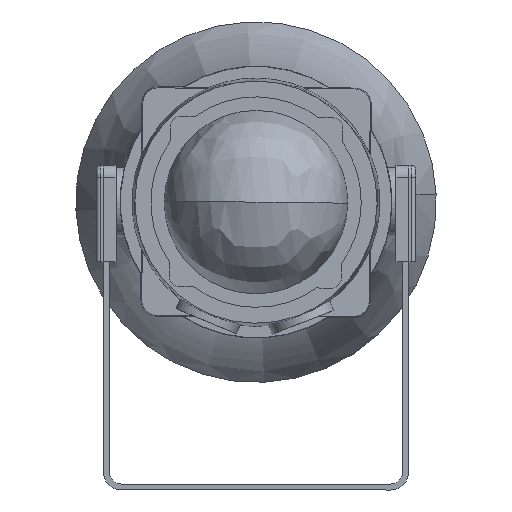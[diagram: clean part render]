
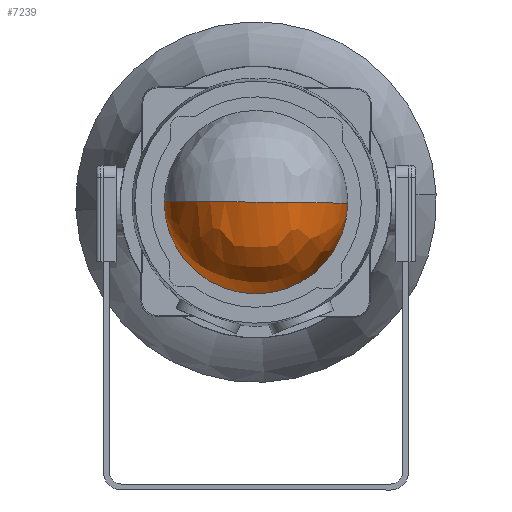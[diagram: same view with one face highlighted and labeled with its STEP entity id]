
A CAD part, left-side view. The second image highlights one B-rep face of the part: STEP entity #7239.
In plain terms, the highlighted free-form (B-spline) face has degree [3, 3] with [4, 4] control points.
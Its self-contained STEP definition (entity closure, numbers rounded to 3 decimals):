
#435 = CARTESIAN_POINT ( 'NONE',  ( -190.8, 46.197, 0.528 ) ) ;
#469 = CARTESIAN_POINT ( 'NONE',  ( -190.8, -46.197, -0.528 ) ) ;
#1197 = CARTESIAN_POINT ( 'NONE',  ( -190.8, 46.197, 0.528 ) ) ;
#1386 = CARTESIAN_POINT ( 'NONE',  ( -190.8, 46.197, 0.528 ) ) ;
#1428 = CARTESIAN_POINT ( 'NONE',  ( -190.8, 47.253, -91.866 ) ) ;
#1429 = EDGE_CURVE ( 'NONE', #9139, #8828, #11932, .T. ) ;
#2427 = CARTESIAN_POINT ( 'NONE',  ( -283.2, 46.816, -53.595 ) ) ;
#3408 = CARTESIAN_POINT ( 'NONE',  ( -190.8, -45.141, -92.922 ) ) ;
#3719 = FACE_OUTER_BOUND ( 'NONE', #3946, .T. ) ;
#3946 = EDGE_LOOP ( 'NONE', ( #6235, #6100 ) ) ;
#4403 = CARTESIAN_POINT ( 'NONE',  ( -283.2, -45.578, -54.651 ) ) ;
#4908 =( BOUNDED_SURFACE ( )  B_SPLINE_SURFACE ( 3, 3, ( 
 ( #1386, #6309, #435, #7319 ),
 ( #1428, #8301, #2427, #9294 ),
 ( #3408, #10254, #4403, #11249 ),
 ( #5365, #12237, #6353, #469 ) ),
 .UNSPECIFIED., .F., .F., .F. ) 
 B_SPLINE_SURFACE_WITH_KNOTS ( ( 4, 4 ),
 ( 4, 4 ),
 ( 0., 1. ),
 ( 0., 1. ),
 .UNSPECIFIED. ) 
 GEOMETRIC_REPRESENTATION_ITEM ( )  RATIONAL_B_SPLINE_SURFACE ( (
 ( 1., 0.805, 0.805, 1.),
 ( 0.333, 0.268, 0.268, 0.333),
 ( 0.333, 0.268, 0.268, 0.333),
 ( 1., 0.805, 0.805, 1.) ) ) 
 REPRESENTATION_ITEM ( '' )  SURFACE ( )  );
#4932 = CARTESIAN_POINT ( 'NONE',  ( -190.8, 0., 0. ) ) ;
#5365 = CARTESIAN_POINT ( 'NONE',  ( -190.8, -46.197, -0.528 ) ) ;
#5490 = AXIS2_PLACEMENT_3D ( 'NONE', #8150, #9908, #7086 ) ;
#5945 = DIRECTION ( 'NONE',  ( 0., -1., -0.011 ) ) ;
#6100 = ORIENTED_EDGE ( 'NONE', *, *, #6947, .F. ) ;
#6118 = AXIS2_PLACEMENT_3D ( 'NONE', #4932, #11832, #5945 ) ;
#6235 = ORIENTED_EDGE ( 'NONE', *, *, #1429, .F. ) ;
#6309 = CARTESIAN_POINT ( 'NONE',  ( -190.8, 46.197, 0.528 ) ) ;
#6353 = CARTESIAN_POINT ( 'NONE',  ( -190.8, -46.197, -0.528 ) ) ;
#6887 = CARTESIAN_POINT ( 'NONE',  ( -190.8, -46.197, -0.528 ) ) ;
#6947 = EDGE_CURVE ( 'NONE', #8828, #9139, #10630, .T. ) ;
#7086 = DIRECTION ( 'NONE',  ( 0., 1., 0.011 ) ) ;
#7239 = ADVANCED_FACE ( 'NONE', ( #3719 ), #4908, .T. ) ;
#7319 = CARTESIAN_POINT ( 'NONE',  ( -190.8, 46.197, 0.528 ) ) ;
#8150 = CARTESIAN_POINT ( 'NONE',  ( -190.8, 0., 0. ) ) ;
#8301 = CARTESIAN_POINT ( 'NONE',  ( -244.927, 47.253, -91.866 ) ) ;
#8828 = VERTEX_POINT ( 'NONE', #6887 ) ;
#9139 = VERTEX_POINT ( 'NONE', #1197 ) ;
#9294 = CARTESIAN_POINT ( 'NONE',  ( -283.2, 46.197, 0.528 ) ) ;
#9908 = DIRECTION ( 'NONE',  ( 0., -0.011, 1. ) ) ;
#10254 = CARTESIAN_POINT ( 'NONE',  ( -244.927, -45.141, -92.922 ) ) ;
#10630 = CIRCLE ( 'NONE', #6118, 46.2 ) ;
#11249 = CARTESIAN_POINT ( 'NONE',  ( -283.2, -46.197, -0.528 ) ) ;
#11832 = DIRECTION ( 'NONE',  ( 1., 0., 0. ) ) ;
#11932 = CIRCLE ( 'NONE', #5490, 46.2 ) ;
#12237 = CARTESIAN_POINT ( 'NONE',  ( -190.8, -46.197, -0.528 ) ) ;
